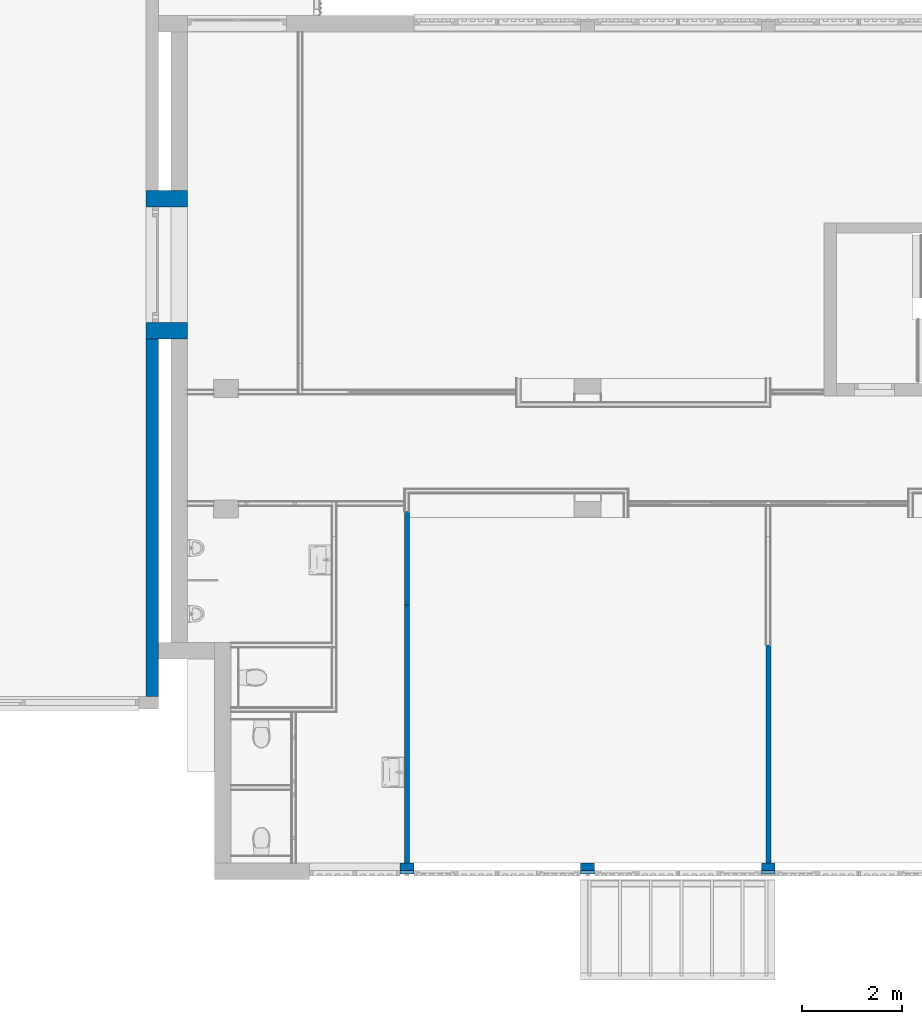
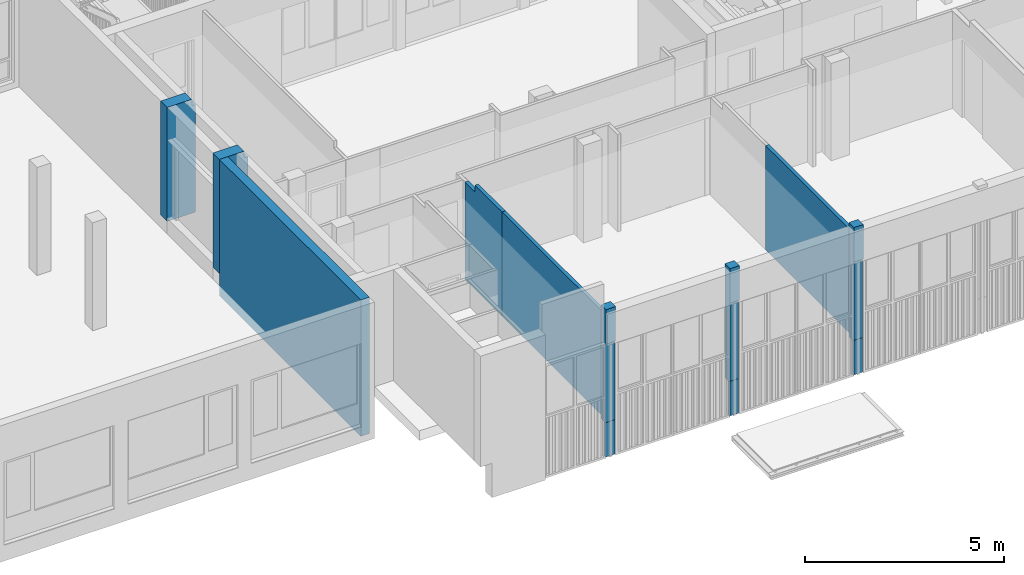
# One storey, part 50 of 117: 12 walls.
"""IFC2X3 building model written with IfcOpenShell, lengths in millimetres."""

from ifc_helpers import new_model, entity, si_unit, converted_unit, derived_unit, money_unit, direction, frame, origin_with_axes, place, context, subcontext, project, spatial, faceted_brep, material, type_object, element, save


model = new_model("IFC2X3")

# Units and contexts
model_context = context("Model", 3, precision=0.01, world=origin_with_axes(), true_north=direction((0.0, 1.0)))
body_context = subcontext(model_context, "Body", "Model", "MODEL_VIEW")
ifc_project = project(units=[si_unit("LENGTHUNIT", "METRE", prefix="MILLI"), si_unit("AREAUNIT", "SQUARE_METRE"), si_unit("VOLUMEUNIT", "CUBIC_METRE"), converted_unit("PLANEANGLEUNIT", "DEGREE", entity("IfcPlaneAngleMeasure", 0.0174532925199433), si_unit("PLANEANGLEUNIT", "RADIAN"), dimensions=[0, 0, 0, 0, 0, 0, 0]), money_unit("EUR"), converted_unit("TIMEUNIT", "Year", entity("IfcTimeMeasure", 31557600.0), si_unit("TIMEUNIT", "SECOND"), dimensions=[0, 0, 1, 0, 0, 0, 0]), si_unit("MASSUNIT", "GRAM", prefix="KILO"), si_unit("THERMODYNAMICTEMPERATUREUNIT", "DEGREE_CELSIUS"), si_unit("LUMINOUSINTENSITYUNIT", "LUMEN"), si_unit("ENERGYUNIT", "JOULE", prefix="MEGA"), derived_unit("THERMALCONDUCTANCEUNIT", [(si_unit("POWERUNIT", "WATT"), 1), (si_unit("LENGTHUNIT", "METRE"), -1), (si_unit("THERMODYNAMICTEMPERATUREUNIT", "KELVIN"), -1)]), derived_unit("SPECIFICHEATCAPACITYUNIT", [(si_unit("ENERGYUNIT", "JOULE"), 1), (si_unit("MASSUNIT", "GRAM", prefix="KILO"), -1), (si_unit("THERMODYNAMICTEMPERATUREUNIT", "KELVIN"), -1)]), derived_unit("MASSDENSITYUNIT", [(si_unit("MASSUNIT", "GRAM", prefix="KILO"), 1), (si_unit("VOLUMEUNIT", "CUBIC_METRE"), -1)])], contexts=[model_context])

# Site, building, storey
site_placement = place(None, origin_with_axes())
site = spatial("IfcSite", under=ifc_project, at=site_placement, Name="Site", CompositionType="ELEMENT")
building_placement = place(site_placement, origin_with_axes())
building = spatial("IfcBuilding", under=site, at=building_placement, Name="Naam gebouw", CompositionType="ELEMENT")
storey_placement = place(building_placement, frame((0.0, 0.0, 4150.0), z_axis=(0.0, 0.0, 1.0), x_axis=(1.0, 0.0, 0.0)))
storey = spatial("IfcBuildingStorey", under=building, at=storey_placement, Name="1e verdieping N", CompositionType="ELEMENT", Elevation=4150.0)

# Walls
ifc_material_1 = material(Name="ALG - CONSTRUCTIEF")
wall_type_1 = type_object("IfcWallType", Name="ALG - CONSTRUCTIEF 100", PredefinedType="NOTDEFINED")
wall_1_placement = place(storey_placement, frame((3599.999999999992, 3445.673880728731, 0.0), z_axis=(0.0, 0.0, 1.0), x_axis=(0.0, 1.0, 0.0)))
element("IfcWall", 1, at=wall_1_placement, inside=storey, type_object=wall_type_1, material=ifc_material_1, Name="_Wand-x", context=body_context, shape_type="Brep", body=[
    faceted_brep([(-0.005173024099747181, -49.99999999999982, 0.0), (-0.005173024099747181, 49.99999999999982, 0.0), (5140.453445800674, 50.00000000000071, 0.0), (5140.453445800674, -49.99999999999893, 0.0), (-0.005173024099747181, -49.99999999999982, 3199.999999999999), (-0.005173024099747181, 50.00000000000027, 3199.999999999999), (5140.453445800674, 50.00000000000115, 3199.999999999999), (5140.453445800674, -49.99999999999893, 3199.999999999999)], [[[0, 1, 2, 3]], [[4, 5, 1, 0]], [[1, 5, 6, 2]], [[7, 3, 2, 6]], [[4, 0, 3, 7]], [[5, 4, 7, 6]]]),
])
wall_2_placement = place(storey_placement, frame((3599.999999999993, 8586.127326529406, 0.0), z_axis=(0.0, 0.0, 1.0), x_axis=(0.0, 1.0, 0.0)))
element("IfcWall", 2, at=wall_2_placement, inside=storey, type_object=wall_type_1, material=ifc_material_1, Name="_Wand-x", context=body_context, shape_type="Brep", body=[
    faceted_brep([(1859.787728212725, 49.99999999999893, 0.0), (1859.787728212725, 50.00000000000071, 2990.000000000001), (1859.787728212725, -49.99999999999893, 2990.000000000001), (1859.787728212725, -49.99999999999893, 0.0), (1359.785098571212, 50.00000000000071, 3200.000000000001), (1359.785098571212, 50.00000000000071, 2990.000000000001), (0.0, 49.99999999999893, 0.0), (0.0, 50.00000000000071, 3199.999999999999), (1359.785098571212, -49.99999999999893, 2990.000000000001), (1359.785098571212, -49.99999999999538, 3200.000000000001), (0.0, -49.99999999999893, 3199.999999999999), (0.0, -49.99999999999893, 0.0)], [[[0, 1, 2, 3]], [[4, 5, 1, 0, 6, 7]], [[5, 8, 2, 1]], [[2, 8, 9, 10, 11, 3]], [[11, 6, 0, 3]], [[5, 4, 9, 8]], [[10, 7, 6, 11]], [[10, 9, 4, 7]]]),
])
wall_3_placement = place(storey_placement, frame((10800.00284667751, 7785.91505474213, -99.99999999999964), z_axis=(0.0, 0.0, 1.0), x_axis=(2.677109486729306e-07, -0.9999999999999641, 0.0)))
element("IfcWall", 3, at=wall_3_placement, inside=storey, type_object=wall_type_1, material=ifc_material_1, Name="_Wand-x", context=body_context, shape_type="Brep", body=[
    faceted_brep([(4340.181537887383, 49.99999999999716, 0.0), (4340.020914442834, 49.99999999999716, 0.0), (4340.020914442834, 49.99999999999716, 99.99999999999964), (0.0, 50.00000000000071, 99.99999999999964), (0.0, 50.00000000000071, 3300.0), (4340.181537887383, 49.99999999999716, 3300.0), (4340.181537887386, -50.00000000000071, 0.0), (4340.020887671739, -50.00000000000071, 0.0), (4340.020887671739, -50.00000000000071, 99.99999999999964), (0.0, -50.00000000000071, 99.99999999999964), (0.0, -49.99999999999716, 3300.0), (4340.181537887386, -50.00000000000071, 3300.0)], [[[0, 1, 2, 3, 4, 5]], [[6, 7, 1, 0]], [[8, 2, 1, 7]], [[8, 9, 3, 2]], [[4, 3, 9, 10]], [[11, 5, 4, 10]], [[0, 5, 11, 6]], [[9, 8, 7, 6, 11, 10]]]),
])
wall_type_2 = type_object("IfcWallType", Name="ALG - CONSTRUCTIEF 330", PredefinedType="NOTDEFINED")
wall_4_placement = place(storey_placement, frame((-770.0761052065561, 16515.59173063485, -99.99999999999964), z_axis=(0.0, 0.0, 1.0), x_axis=(-1.0, 0.0, 0.0)))
element("IfcWall", 4, at=wall_4_placement, inside=storey, type_object=wall_type_2, material=ifc_material_1, Name="_Wand-x", context=body_context, shape_type="Brep", body=[
    faceted_brep([(829.9238947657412, -329.9999999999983, 3500.0), (114.3515342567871, -329.9999999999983, 3500.0), (114.3515342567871, -330.0000000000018, 3300.0), (0.0, -329.9999999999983, 3300.0), (0.0, -329.9999999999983, 0.0), (829.9238947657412, -330.0000000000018, 0.0), (829.9238947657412, 0.0, 3500.0), (114.3515342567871, 0.0, 3500.0), (114.3515342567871, 0.0, 3300.0), (0.0, 0.0, 3300.0), (0.0, 0.0, 0.0), (829.9238947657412, 0.0, 0.0)], [[[0, 1, 2, 3, 4, 5]], [[6, 7, 1, 0]], [[8, 2, 1, 7]], [[8, 9, 3, 2]], [[4, 3, 9, 10]], [[4, 10, 11, 5]], [[5, 11, 6, 0]], [[9, 8, 7, 6, 11, 10]]]),
])
wall_5_placement = place(storey_placement, frame((-770.0761052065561, 14215.57502437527, -99.99999999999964), z_axis=(0.0, 0.0, 1.0), x_axis=(-1.0, 0.0, 0.0)))
element("IfcWall", 5, at=wall_5_placement, inside=storey, type_object=wall_type_2, material=ifc_material_1, Name="_Wand-x", context=body_context, shape_type="Brep", body=[
    faceted_brep([(829.9238947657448, 0.0, 3500.0), (114.3515342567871, 0.0, 3500.0), (114.3515342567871, 0.0, 3300.0), (0.0, 0.0, 3300.0), (0.0, 0.0, 0.0), (829.9238947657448, 0.0, 0.0), (829.9238947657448, 330.0000000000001, 3500.0), (114.3515342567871, 330.0000000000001, 3500.0), (114.3515342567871, 330.0000000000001, 3300.0), (0.0, 330.0000000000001, 3300.0), (0.0, 330.0000000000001, 0.0), (829.9238947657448, 330.0000000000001, 0.0)], [[[0, 1, 2, 3, 4, 5]], [[6, 7, 1, 0]], [[8, 2, 1, 7]], [[8, 9, 3, 2]], [[4, 3, 9, 10]], [[4, 10, 11, 5]], [[6, 0, 5, 11]], [[9, 8, 7, 6, 11, 10]]]),
])
wall_type_3 = type_object("IfcWallType", Name="ALG - CONSTRUCTIEF 250", PredefinedType="NOTDEFINED")
wall_6_placement = place(storey_placement, frame((-1599.9999999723, 14215.57502437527, -790.0), z_axis=(0.0, 0.0, 1.0), x_axis=(0.0, -1.0, 0.0)))
element("IfcWall", 6, at=wall_6_placement, inside=storey, type_object=wall_type_3, material=ifc_material_1, Name="_Wand-x", context=body_context, shape_type="Brep", body=[
    faceted_brep([(330.0000000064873, 250.0000000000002, 0.0), (329.9999999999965, 250.0000000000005, 4190.0), (7449.983293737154, 250.0000000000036, 4190.0), (7449.983293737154, 250.0000000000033, 0.0), (330.0000000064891, 1.416693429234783e-07, 0.0), (329.9999999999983, 0.0, 4190.0), (7449.983390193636, 0.0, 4190.0), (7449.983390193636, 0.0, 0.0)], [[[0, 1, 2, 3]], [[4, 5, 1, 0]], [[2, 1, 5, 6]], [[7, 3, 2, 6]], [[7, 4, 0, 3]], [[6, 5, 4, 7]]]),
])
ifc_material_2 = material(Name="ALG - GEVEL")
wall_type_4 = type_object("IfcWallType", Name="ALG - GEVEL 260", PredefinedType="NOTDEFINED")
wall_7_placement = place(storey_placement, frame((7062.449650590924, 3185.668707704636, 0.0), z_axis=(0.0, 0.0, 1.0), x_axis=(1.0, 0.0, 0.0)))
element("IfcWall", 7, at=wall_7_placement, inside=storey, type_object=wall_type_4, material=ifc_material_2, Name="_Wand-x", context=body_context, shape_type="Brep", body=[
    faceted_brep([(275.0069401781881, 44.00000000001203, 2440.000000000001), (275.0069401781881, 0.0, 2440.000000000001), (0.0503494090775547, 0.0, 2440.000000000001), (0.0503494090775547, 44.00000000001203, 2440.000000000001), (275.0069401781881, 44.00000000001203, 0.0), (275.0069401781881, 259.9999999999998, 0.0), (275.0069401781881, 259.9999999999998, 3500.000000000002), (275.0069401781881, 0.0, 3500.000000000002), (0.0, 0.0, 3500.000000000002), (0.0, 0.0, 0.0), (0.0503494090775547, 0.0, 0.0), (0.0503494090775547, 44.00000000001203, 0.0), (0.0, 259.9999999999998, 0.0), (0.0, 259.9999999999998, 3500.000000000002)], [[[0, 1, 2, 3]], [[1, 0, 4, 5, 6, 7]], [[2, 1, 7, 8, 9, 10]], [[2, 10, 11, 3]], [[3, 11, 4, 0]], [[4, 11, 10, 9, 12, 5]], [[5, 12, 13, 6]], [[6, 13, 8, 7]], [[9, 8, 13, 12]]]),
])
wall_8_placement = place(storey_placement, frame((10662.44965059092, 3185.668707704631, 0.0), z_axis=(0.0, 0.0, 1.0), x_axis=(1.0, 0.0, 0.0)))
element("IfcWall", 8, at=wall_8_placement, inside=storey, type_object=wall_type_4, material=ifc_material_2, Name="_Wand-x", context=body_context, shape_type="Brep", body=[
    faceted_brep([(274.9999999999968, 44.00000000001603, 2440.000000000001), (274.9999999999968, 0.0, 2440.000000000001), (0.05034940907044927, 0.0, 2440.000000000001), (0.05034940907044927, 44.00000000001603, 2440.000000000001), (274.9999999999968, 44.00000000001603, 0.0), (274.9999999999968, 259.9999999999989, 0.0), (274.9999999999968, 260.0000000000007, 3500.000000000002), (274.9999999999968, 0.0, 3500.000000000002), (0.0, 0.0, 3500.000000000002), (0.0, 0.0, 0.0), (0.05034940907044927, 0.0, 0.0), (0.05034940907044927, 44.00000000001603, 0.0), (0.0, 259.9999999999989, 0.0), (0.0, 260.0000000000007, 3500.000000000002)], [[[0, 1, 2, 3]], [[1, 0, 4, 5, 6, 7]], [[2, 1, 7, 8, 9, 10]], [[2, 10, 11, 3]], [[3, 11, 4, 0]], [[4, 11, 10, 9, 12, 5]], [[5, 12, 13, 6]], [[6, 13, 8, 7]], [[9, 8, 13, 12]]]),
])
wall_9_placement = place(storey_placement, frame((3462.498759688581, 3185.668707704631, 0.0), z_axis=(0.0, 0.0, 1.0), x_axis=(1.0, 0.0, 0.0)))
element("IfcWall", 9, at=wall_9_placement, inside=storey, type_object=wall_type_4, material=ifc_material_2, Name="_Wand-x", context=body_context, shape_type="Brep", body=[
    faceted_brep([(274.9754454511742, 44.00000000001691, 2440.000000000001), (274.9754454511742, 0.0, 2440.000000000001), (0.001240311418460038, 0.0, 2440.000000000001), (0.001240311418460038, 44.00000000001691, 2440.000000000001), (274.9754454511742, 44.00000000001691, 0.0), (274.9754454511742, 259.9999999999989, 0.0), (274.9754454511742, 260.0000000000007, 3500.000000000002), (274.9754454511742, 0.0, 3500.000000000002), (0.0, 0.0, 3500.000000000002), (0.001240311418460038, 44.00000000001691, 0.0), (0.0, 260.0000000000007, 3500.000000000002), (0.0, 259.9999999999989, 0.0)], [[[0, 1, 2, 3]], [[1, 0, 4, 5, 6, 7]], [[2, 1, 7, 8]], [[9, 3, 2, 8, 10, 11]], [[3, 9, 4, 0]], [[4, 9, 11, 5]], [[5, 11, 10, 6]], [[6, 10, 8, 7]]]),
])
wall_type_5 = type_object("IfcWallType", Name="ALG - GEVEL 110", PredefinedType="NOTDEFINED")
wall_10_placement = place(storey_placement, frame((7062.456590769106, 3185.668707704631, -1060.0), z_axis=(0.0, 0.0, 1.0), x_axis=(1.0, 0.0, 0.0)))
element("IfcWall", 10, at=wall_10_placement, inside=storey, type_object=wall_type_5, material=ifc_material_2, Name="_Wand-x", context=body_context, shape_type="Brep", body=[
    faceted_brep([(0.04340923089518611, 44.00000000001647, 1060.0), (275.0000000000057, 44.00000000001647, 1060.0), (275.0000000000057, 109.9999999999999, 1060.0), (0.0, 109.9999999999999, 1060.0), (0.0, 0.0, 1060.0), (0.04340923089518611, 0.0, 1060.0), (0.04340923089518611, 44.00000000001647, 0.0), (275.0000000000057, 44.00000000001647, 0.0), (275.0000000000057, 109.9999999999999, 0.0), (0.0, 109.9999999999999, 0.0), (0.0, 6.990264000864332, 28.51433297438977), (0.0, 4.990264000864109, 28.51433297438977), (0.0, 4.990264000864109, 18.51433297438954), (0.0, 0.0, 17.6344147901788), (0.0, 0.0, 0.0), (0.0, 0.0, 15.60356156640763), (0.0, 6.990264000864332, 16.83613371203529), (0.04340923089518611, 0.0, 17.6344147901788), (0.04340923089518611, 4.990264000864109, 18.51433297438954), (0.04340923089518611, 4.990264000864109, 28.51433297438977), (0.04340923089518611, 6.990264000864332, 28.51433297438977), (0.04340923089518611, 6.990264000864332, 16.83613371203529), (0.04340923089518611, 0.0, 15.60356156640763), (0.04340923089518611, 0.0, 0.0)], [[[0, 1, 2, 3, 4, 5]], [[0, 6, 7, 1]], [[2, 1, 7, 8]], [[8, 9, 3, 2]], [[10, 11, 12, 13, 4, 3, 9, 14, 15, 16]], [[13, 17, 5, 4]], [[6, 0, 5, 17, 18, 19, 20, 21, 22, 23]], [[7, 6, 23, 14, 9, 8]], [[10, 20, 19, 11]], [[11, 19, 18, 12]], [[12, 18, 17, 13]], [[14, 23, 22, 15]], [[15, 22, 21, 16]], [[16, 21, 20, 10]]]),
])
wall_11_placement = place(storey_placement, frame((10662.44965059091, 3185.668707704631, -1060.0), z_axis=(0.0, 0.0, 1.0), x_axis=(1.0, 0.0, 0.0)))
element("IfcWall", 11, at=wall_11_placement, inside=storey, type_object=wall_type_5, material=ifc_material_2, Name="_Wand-x", context=body_context, shape_type="Brep", body=[
    faceted_brep([(0.05034940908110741, 44.00000000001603, 1060.0), (275.0000000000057, 44.00000000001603, 1060.0), (275.0000000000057, 109.9999999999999, 1060.0), (0.0, 109.9999999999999, 1060.0), (0.0, 0.0, 1060.0), (0.05034940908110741, 0.0, 1060.0), (0.05034940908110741, 44.00000000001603, 0.0), (275.0000000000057, 44.00000000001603, 0.0), (275.0000000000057, 109.9999999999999, 0.0), (0.0, 109.9999999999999, 0.0), (0.0, 6.990264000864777, 28.51433297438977), (0.0, 4.990264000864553, 28.51433297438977), (0.0, 4.990264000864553, 18.51433297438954), (0.0, 0.0, 17.6344147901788), (0.0, 0.0, 0.0), (0.0, 0.0, 15.60356156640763), (0.0, 6.990264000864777, 16.83613371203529), (0.05034940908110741, 0.0, 17.6344147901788), (0.05034940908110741, 4.990264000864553, 18.51433297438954), (0.05034940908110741, 4.990264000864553, 28.51433297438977), (0.05034940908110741, 6.990264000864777, 28.51433297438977), (0.05034940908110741, 6.990264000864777, 16.83613371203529), (0.05034940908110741, 0.0, 15.60356156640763), (0.05034940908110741, 0.0, 0.0)], [[[0, 1, 2, 3, 4, 5]], [[0, 6, 7, 1]], [[2, 1, 7, 8]], [[8, 9, 3, 2]], [[10, 11, 12, 13, 4, 3, 9, 14, 15, 16]], [[13, 17, 5, 4]], [[6, 0, 5, 17, 18, 19, 20, 21, 22, 23]], [[7, 6, 23, 14, 9, 8]], [[10, 20, 19, 11]], [[11, 19, 18, 12]], [[12, 18, 17, 13]], [[14, 23, 22, 15]], [[15, 22, 21, 16]], [[16, 21, 20, 10]]]),
])
wall_12_placement = place(storey_placement, frame((3462.498759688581, 3185.668707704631, -1060.0), z_axis=(0.0, 0.0, 1.0), x_axis=(1.0, 0.0, 0.0)))
element("IfcWall", 12, at=wall_12_placement, inside=storey, type_object=wall_type_5, material=ifc_material_2, Name="_Wand-x", context=body_context, shape_type="Brep", body=[
    faceted_brep([(0.001240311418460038, 44.00000000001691, 1060.0), (274.9754454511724, 44.00000000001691, 1060.0), (274.9754454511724, 109.9999999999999, 1060.0), (0.0, 109.9999999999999, 1060.0), (0.001240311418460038, 44.00000000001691, 0.0), (274.9754454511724, 44.00000000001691, 0.0), (274.9754454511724, 109.9999999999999, 0.0), (0.0, 109.9999999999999, 0.0)], [[[0, 1, 2, 3]], [[0, 4, 5, 1]], [[2, 1, 5, 6]], [[6, 7, 3, 2]], [[7, 4, 0, 3]], [[5, 4, 7, 6]]]),
])

save(model, "model.ifc")
